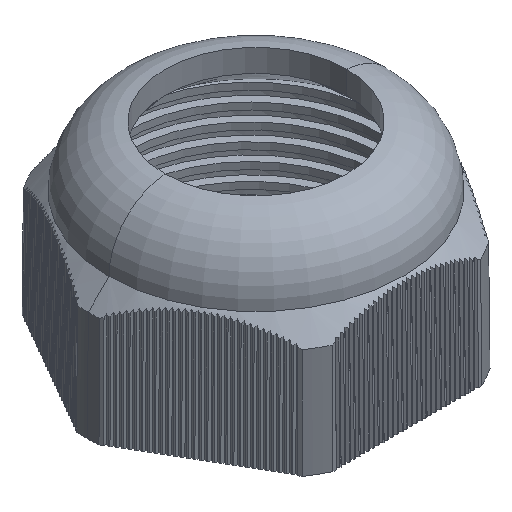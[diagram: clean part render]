
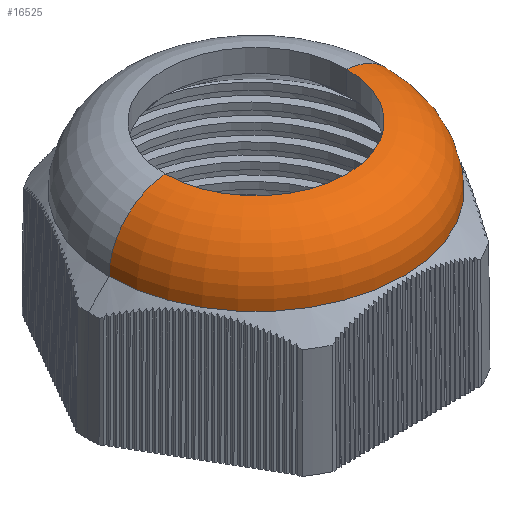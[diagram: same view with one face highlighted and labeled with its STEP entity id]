
A CAD part, isometric view. The second image highlights one B-rep face of the part: STEP entity #16525.
In plain terms, the highlighted toroidal (fillet/blend) face has major radius 7.2 mm and minor radius 5.04 mm.
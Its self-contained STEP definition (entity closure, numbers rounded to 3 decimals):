
#178 = DIRECTION ( 'NONE',  ( -1., 0., 0. ) ) ;
#547 = DIRECTION ( 'NONE',  ( 0., -1., 0. ) ) ;
#1077 = AXIS2_PLACEMENT_3D ( 'NONE', #22518, #547, #19928 ) ;
#1093 = CARTESIAN_POINT ( 'NONE',  ( 0.004, 0.011, 13.817 ) ) ;
#2148 = FACE_OUTER_BOUND ( 'NONE', #22954, .T. ) ;
#2285 = DIRECTION ( 'NONE',  ( 0., 0., -1. ) ) ;
#2580 = CARTESIAN_POINT ( 'NONE',  ( -12.236, 0.011, 13.817 ) ) ;
#3935 = CARTESIAN_POINT ( 'NONE',  ( -7.556, 0.011, 18.857 ) ) ;
#4106 = CIRCLE ( 'NONE', #18423, 7.56 ) ;
#5309 = DIRECTION ( 'NONE',  ( 0., 0., -1. ) ) ;
#5803 = VERTEX_POINT ( 'NONE', #2580 ) ;
#7726 = DIRECTION ( 'NONE',  ( 0., 1., 0. ) ) ;
#7818 = DIRECTION ( 'NONE',  ( 0., 0., 1. ) ) ;
#9151 = TOROIDAL_SURFACE ( 'NONE', #11260, 7.2, 5.04 ) ;
#9262 = DIRECTION ( 'NONE',  ( -1., 0., 0. ) ) ;
#10852 = AXIS2_PLACEMENT_3D ( 'NONE', #14298, #7726, #22062 ) ;
#10964 = VERTEX_POINT ( 'NONE', #16113 ) ;
#11260 = AXIS2_PLACEMENT_3D ( 'NONE', #18223, #2285, #178 ) ;
#12746 = ORIENTED_EDGE ( 'NONE', *, *, #16389, .F. ) ;
#13610 = DIRECTION ( 'NONE',  ( 1., 0., 0. ) ) ;
#14298 = CARTESIAN_POINT ( 'NONE',  ( 7.204, 0.011, 13.83 ) ) ;
#15684 = EDGE_CURVE ( 'NONE', #19901, #10964, #18842, .T. ) ;
#16113 = CARTESIAN_POINT ( 'NONE',  ( 12.244, 0.011, 13.817 ) ) ;
#16389 = EDGE_CURVE ( 'NONE', #24318, #19901, #4106, .T. ) ;
#16525 = ADVANCED_FACE ( 'NONE', ( #2148 ), #9151, .T. ) ;
#16695 = CARTESIAN_POINT ( 'NONE',  ( 7.564, 0.011, 18.857 ) ) ;
#16862 = CIRCLE ( 'NONE', #21904, 12.24 ) ;
#18148 = ORIENTED_EDGE ( 'NONE', *, *, #26009, .T. ) ;
#18223 = CARTESIAN_POINT ( 'NONE',  ( 0.004, 0.011, 13.83 ) ) ;
#18233 = EDGE_CURVE ( 'NONE', #10964, #5803, #16862, .T. ) ;
#18423 = AXIS2_PLACEMENT_3D ( 'NONE', #25840, #7818, #13610 ) ;
#18818 = ORIENTED_EDGE ( 'NONE', *, *, #18233, .F. ) ;
#18842 = CIRCLE ( 'NONE', #10852, 5.04 ) ;
#19901 = VERTEX_POINT ( 'NONE', #16695 ) ;
#19928 = DIRECTION ( 'NONE',  ( 0., 0., -1. ) ) ;
#20183 = ORIENTED_EDGE ( 'NONE', *, *, #15684, .F. ) ;
#21904 = AXIS2_PLACEMENT_3D ( 'NONE', #1093, #5309, #9262 ) ;
#22062 = DIRECTION ( 'NONE',  ( -1., 0., 0. ) ) ;
#22518 = CARTESIAN_POINT ( 'NONE',  ( -7.196, 0.011, 13.83 ) ) ;
#22954 = EDGE_LOOP ( 'NONE', ( #20183, #12746, #18148, #18818 ) ) ;
#24318 = VERTEX_POINT ( 'NONE', #3935 ) ;
#25840 = CARTESIAN_POINT ( 'NONE',  ( 0.004, 0.011, 18.857 ) ) ;
#25885 = CIRCLE ( 'NONE', #1077, 5.04 ) ;
#26009 = EDGE_CURVE ( 'NONE', #24318, #5803, #25885, .T. ) ;
